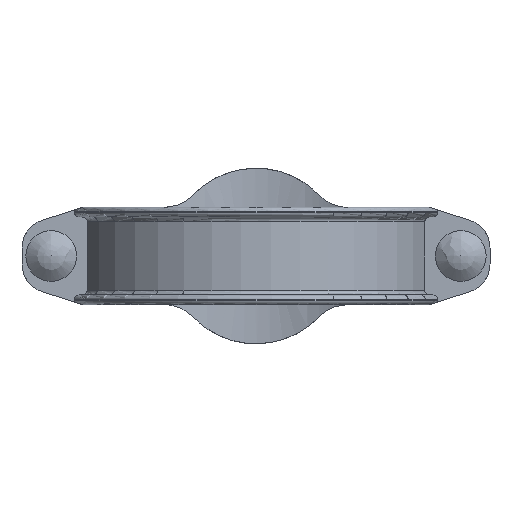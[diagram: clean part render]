
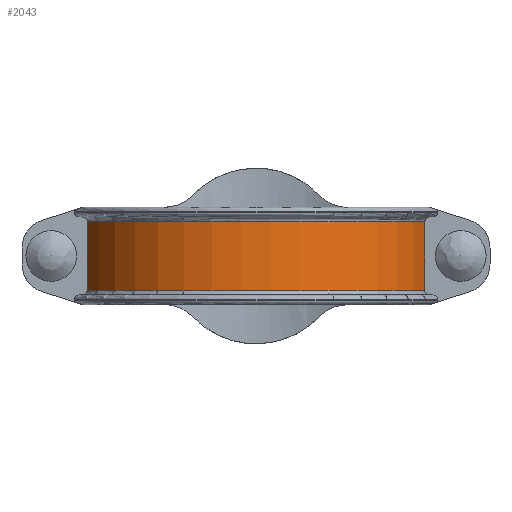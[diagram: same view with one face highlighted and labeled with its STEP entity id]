
A CAD part, front view. The second image highlights one B-rep face of the part: STEP entity #2043.
In plain terms, the highlighted cylindrical face has radius 115.888 mm (diameter 231.775 mm), a partial arc.
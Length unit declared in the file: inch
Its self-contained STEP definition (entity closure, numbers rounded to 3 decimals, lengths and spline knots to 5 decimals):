
#103=CYLINDRICAL_SURFACE('',#2242,4.5625);
#200=CIRCLE('',#2241,4.5625);
#201=CIRCLE('',#2243,4.5625);
#290=FACE_OUTER_BOUND('',#400,.T.);
#400=EDGE_LOOP('',(#1663,#1664,#1665,#1666));
#598=LINE('',#4186,#744);
#599=LINE('',#4189,#745);
#744=VECTOR('',#2739,0.3937);
#745=VECTOR('',#2742,0.3937);
#932=VERTEX_POINT('',#4161);
#933=VERTEX_POINT('',#4172);
#934=VERTEX_POINT('',#4185);
#935=VERTEX_POINT('',#4187);
#1203=EDGE_CURVE('',#932,#933,#200,.T.);
#1205=EDGE_CURVE('',#934,#932,#598,.T.);
#1206=EDGE_CURVE('',#934,#935,#201,.T.);
#1207=EDGE_CURVE('',#933,#935,#599,.T.);
#1663=ORIENTED_EDGE('',*,*,#1205,.F.);
#1664=ORIENTED_EDGE('',*,*,#1206,.T.);
#1665=ORIENTED_EDGE('',*,*,#1207,.F.);
#1666=ORIENTED_EDGE('',*,*,#1203,.F.);
#2043=ADVANCED_FACE('',(#290),#103,.T.);
#2241=AXIS2_PLACEMENT_3D('',#4173,#2735,#2736);
#2242=AXIS2_PLACEMENT_3D('',#4184,#2737,#2738);
#2243=AXIS2_PLACEMENT_3D('',#4188,#2740,#2741);
#2735=DIRECTION('center_axis',(0.,0.,1.));
#2736=DIRECTION('ref_axis',(-1.,0.,0.));
#2737=DIRECTION('center_axis',(0.,0.,1.));
#2738=DIRECTION('ref_axis',(-1.,0.,0.));
#2739=DIRECTION('',(0.,0.,1.));
#2740=DIRECTION('center_axis',(0.,0.,1.));
#2741=DIRECTION('ref_axis',(-1.,0.,0.));
#2742=DIRECTION('',(0.,0.,-1.));
#4161=CARTESIAN_POINT('',(-4.32863,-1.442,0.88));
#4172=CARTESIAN_POINT('',(4.32863,-1.442,0.88));
#4173=CARTESIAN_POINT('Origin',(0.,0.,
0.88));
#4184=CARTESIAN_POINT('Origin',(0.,0.,0.));
#4185=CARTESIAN_POINT('',(-4.32863,-1.442,-0.88));
#4186=CARTESIAN_POINT('',(-4.32863,-1.442,0.));
#4187=CARTESIAN_POINT('',(4.32863,-1.442,-0.88));
#4188=CARTESIAN_POINT('Origin',(0.,0.,
-0.88));
#4189=CARTESIAN_POINT('',(4.32863,-1.442,0.));
